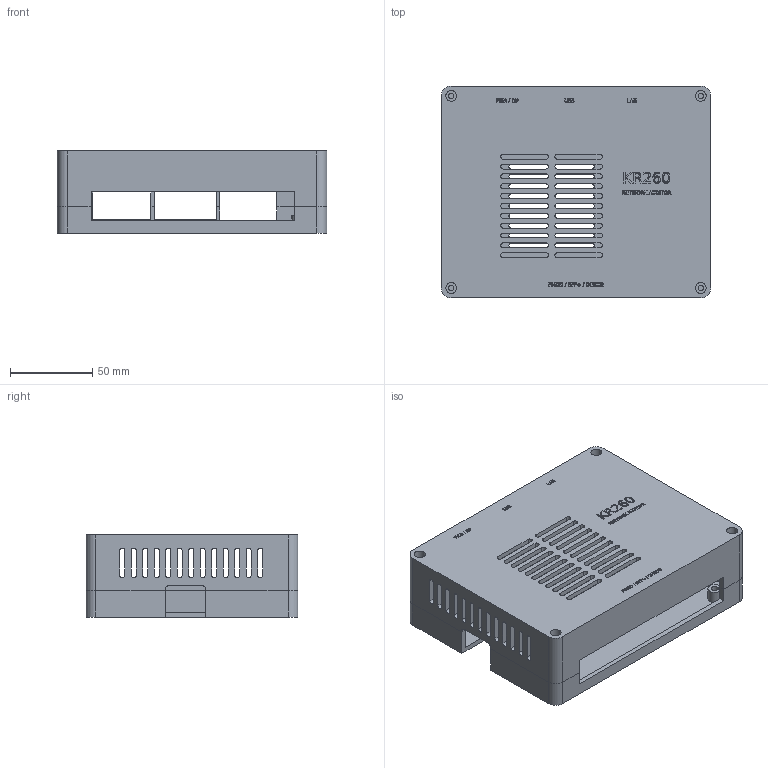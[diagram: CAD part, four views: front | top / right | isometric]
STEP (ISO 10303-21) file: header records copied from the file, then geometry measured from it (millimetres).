
FILE_DESCRIPTION(('Open CASCADE Model'),'2;1');
FILE_NAME('Open CASCADE Shape Model','2026-09-27T12:06:41',('Author'),( 'Open CASCADE'),'Open CASCADE STEP processor 7.9','Open CASCADE 7.9' ,'Unknown');
FILE_SCHEMA(('AUTOMOTIVE_DESIGN { 1 0 10303 214 1 1 1 1 }'));
Length unit declared in the file: millimetre
Products named in the file (3): Open CASCADE STEP translator 7.9 1; Open CASCADE STEP translator 7.9 1.1; Open CASCADE STEP translator 7.9 1.2
Assembly tree (2 placements, depth 2):
  Open CASCADE STEP translator 7.9 1
    Open CASCADE STEP translator 7.9 1.1
    Open CASCADE STEP translator 7.9 1.2
Bounding box: 164 x 129 x 50 mm (x, y, z)
Volume: 179888.1 mm3; surface area: 132791.9 mm2
Topology: 2 solids, 2 shells, 1148 faces, 3149 edges, 2098 vertices
Faces by surface type: plane 630, extrusion 336, cylinder 178, cone 4
Full cylindrical faces by diameter (mm): 2.8 x4, 3.4 x8, 4.2 x8, 6.6 x4, 8.5 x4
Entity records: 85054 total; most frequent: CARTESIAN_POINT 27675, DIRECTION 8344, ORIENTED_EDGE 6298, PCURVE 6298, DEFINITIONAL_REPRESENTATION 6298, VECTOR 5947, LINE 5611, B_SPLINE_CURVE_WITH_KNOTS 3456
